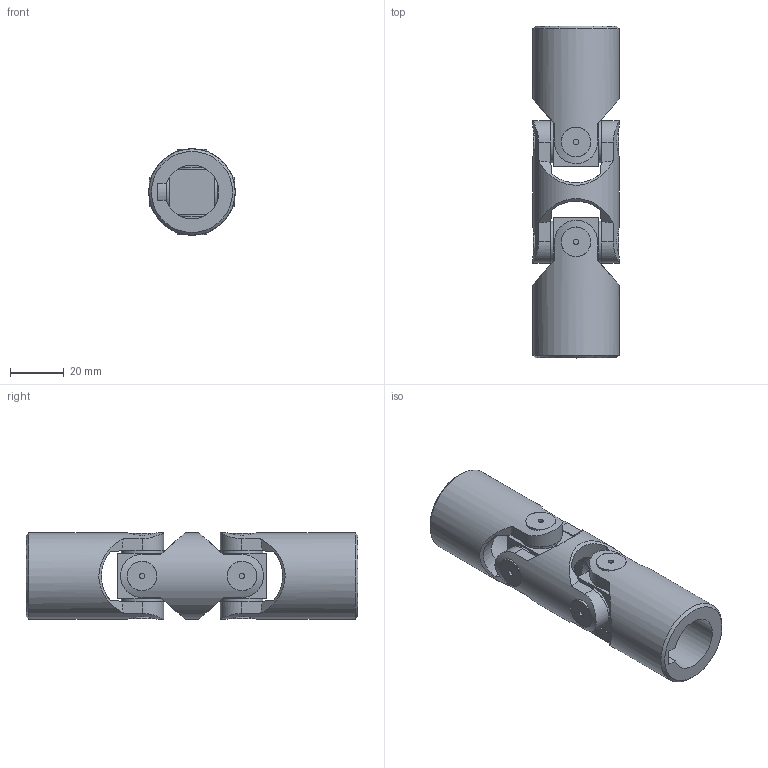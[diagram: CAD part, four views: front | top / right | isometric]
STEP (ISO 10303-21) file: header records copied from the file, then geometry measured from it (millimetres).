
FILE_DESCRIPTION(/* description */ (''),/* implementation_level */ '2;1');
FILE_NAME(/* name */ '\\SRV2016\Societa\Stefano\Disegni 3D\00Catalogo 3D\02Doppi GD-GBD\SGBD201C.stp',/* time_stamp */ '2021-11-22T17:27:27+01:00',/* author */ ('acquisti'),/* organization */ (''),/* preprocessor_version */ 'ST-DEVELOPER v15.6',/* originating_system */ 'Autodesk Inventor 2015',/* authorisation */ '');
FILE_SCHEMA (('CONFIG_CONTROL_DESIGN','AUTOMOTIVE_DESIGN { 1 0 10303 214 3 1 1 }'));
Length unit declared in the file: millimetre
Products named in the file (5): 1G MOD; 1G SFE; 3GB MOC; 3GB MOS; Ø32_3GBD-00_SGBD2000
Assembly tree (5 placements, depth 2):
  Ø32_3GBD-00_SGBD2000
    1G MOD
    1G SFE  x2
    3GB MOC
    3GB MOS
Bounding box: 32 x 123 x 32 mm (x, y, z)
Volume: 60872.4 mm3; surface area: 24891.3 mm2
Topology: 5 solids, 5 shells, 166 faces, 390 edges, 252 vertices
Faces by surface type: plane 77, cylinder 63, cone 20, torus 6
Full cylindrical faces by diameter (mm): 2 x8, 15.5 x8, 18 x2, 20 x1, 32 x3
Entity records: 5063 total; most frequent: CARTESIAN_POINT 1741, ORIENTED_EDGE 660, DIRECTION 649, EDGE_CURVE 330, AXIS2_PLACEMENT_3D 285, VERTEX_POINT 226, EDGE_LOOP 198, FACE_OUTER_BOUND 152
